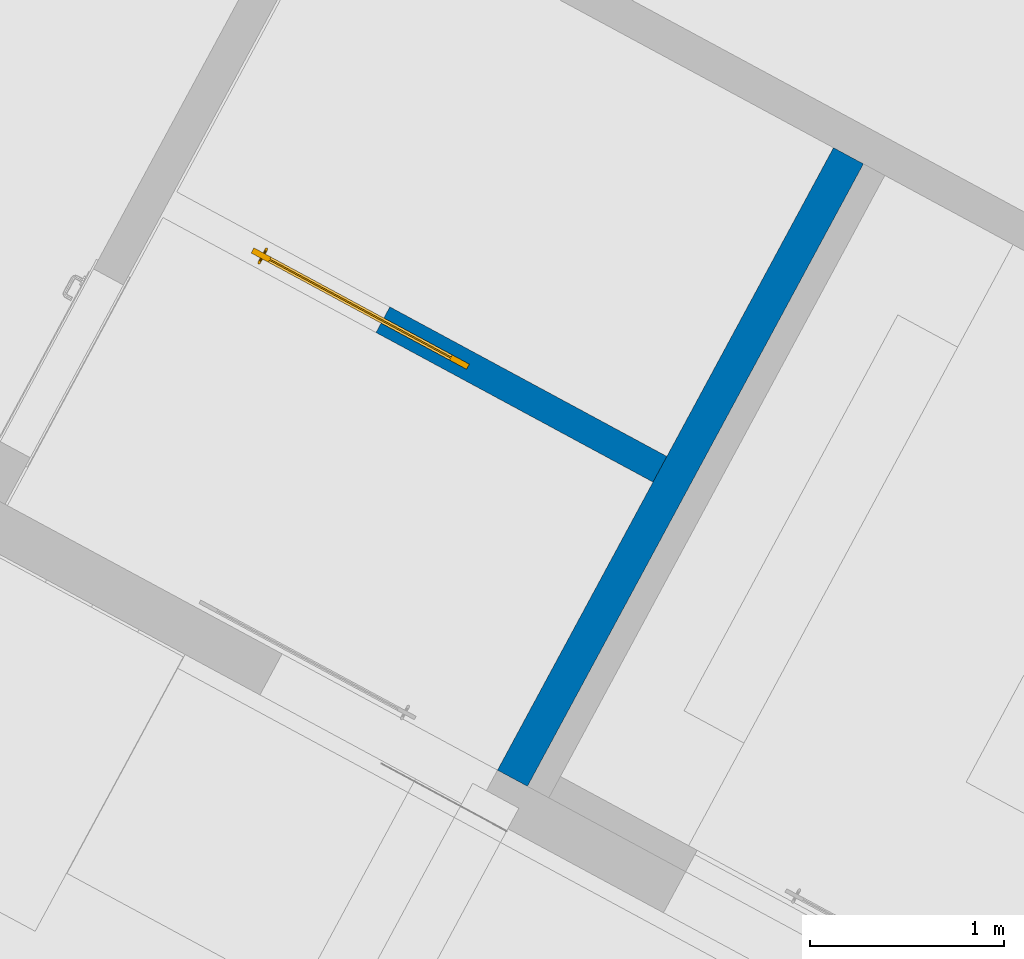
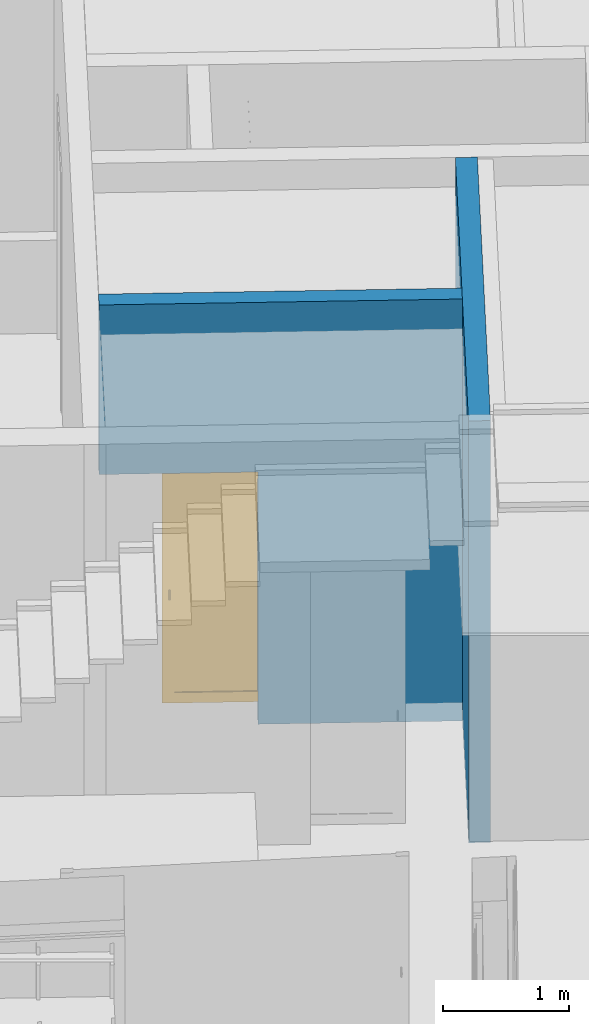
# One storey, part 16 of 52: 2 walls, 1 door, 1 opening.
"""IFC2X3 building model written with IfcOpenShell, lengths in metres."""

from ifc_helpers import new_model, entity, si_unit, converted_unit, derived_unit, money_unit, direction, frame, origin_with_axes, origin_2d_with_axis, place, context, subcontext, project, spatial, rectangle, extrude, faceted_brep, material, material_list, type_object, element, fill, save


model = new_model("IFC2X3")

# Units and contexts
model_context = context("Model", 3, precision=1e-05, world=origin_with_axes(), true_north=direction((0.0, 1.0)))
body_context = subcontext(model_context, "Body", "Model", "MODEL_VIEW")
ifc_project = project(units=[si_unit("LENGTHUNIT", "METRE"), si_unit("AREAUNIT", "SQUARE_METRE"), si_unit("VOLUMEUNIT", "CUBIC_METRE"), converted_unit("PLANEANGLEUNIT", "DEGREE", entity("IfcPlaneAngleMeasure", 0.0174532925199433), si_unit("PLANEANGLEUNIT", "RADIAN"), dimensions=[0, 0, 0, 0, 0, 0, 0]), money_unit("EUR"), converted_unit("TIMEUNIT", "Year", entity("IfcTimeMeasure", 31556926.0), si_unit("TIMEUNIT", "SECOND"), dimensions=[0, 0, 1, 0, 0, 0, 0]), si_unit("MASSUNIT", "GRAM", prefix="KILO"), si_unit("THERMODYNAMICTEMPERATUREUNIT", "DEGREE_CELSIUS"), si_unit("LUMINOUSINTENSITYUNIT", "LUMEN"), si_unit("ENERGYUNIT", "JOULE", prefix="MEGA"), derived_unit("THERMALCONDUCTANCEUNIT", [(si_unit("POWERUNIT", "WATT"), 1), (si_unit("LENGTHUNIT", "METRE"), -1), (si_unit("THERMODYNAMICTEMPERATUREUNIT", "KELVIN"), -1)]), derived_unit("SPECIFICHEATCAPACITYUNIT", [(si_unit("ENERGYUNIT", "JOULE"), 1), (si_unit("MASSUNIT", "GRAM", prefix="KILO"), -1), (si_unit("THERMODYNAMICTEMPERATUREUNIT", "KELVIN"), -1)]), derived_unit("MASSDENSITYUNIT", [(si_unit("MASSUNIT", "GRAM", prefix="KILO"), 1), (si_unit("VOLUMEUNIT", "CUBIC_METRE"), -1)])], contexts=[model_context])

# Site, building, storey
site_placement = place(None, frame((-3.949935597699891, 1.740105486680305, 0.0), z_axis=(0.0, 0.0, 1.0), x_axis=(0.8799804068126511, -0.475009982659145, 0.0)))
site = spatial("IfcSite", under=ifc_project, at=site_placement, Name="Gelände", CompositionType="ELEMENT")
building_placement = place(site_placement, origin_with_axes())
building = spatial("IfcBuilding", under=site, at=building_placement, Name="Gebäude", CompositionType="ELEMENT")
storey_placement = place(building_placement, origin_with_axes())
storey = spatial("IfcBuildingStorey", under=building, at=storey_placement, Name="Erdgeschoss", CompositionType="ELEMENT", Elevation=0.0)

# Wall
ifc_material_1 = material(Name="_SIWH - MW Kalksandstein")
wall_type_1 = type_object("IfcWallType", Name="_SIWH - WI | KS 17,5 | 17,5cm 175", PredefinedType="NOTDEFINED")
wall_1_placement = place(storey_placement, frame((13.59247159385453, 14.53810341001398, -0.18), z_axis=(0.0, 0.0, 1.0), x_axis=(4.437408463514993e-06, -0.9999999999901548, 0.0)))
element("IfcWall", 1, at=wall_1_placement, inside=storey, type_object=wall_type_1, material=ifc_material_1, Name="I-Wand027", context=body_context, shape_type="Brep", body=[
    faceted_brep([(3.640302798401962, 0.0, 0.0), (1.355653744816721e-05, 0.0, 0.0), (1.355653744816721e-05, 0.0, 4.080000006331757), (3.64030279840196, 0.0, 4.080000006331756), (3.640302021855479, -0.1749999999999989, 0.0), (1.277999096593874e-05, -0.1750000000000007, 0.0), (1.277999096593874e-05, -0.1750000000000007, 4.080000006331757), (3.640302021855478, -0.1749999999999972, 4.080000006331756)], [[[0, 1, 2, 3]], [[4, 5, 1, 0]], [[2, 1, 5, 6]], [[3, 2, 6, 7]], [[7, 4, 0, 3]], [[6, 5, 4, 7]]]),
])

# Wall, opening, door
ifc_material_2 = material(Name="_SIWH - Gipskarton")
ifc_material_3 = material(Name="_SIWH - Dämmung, weich Mineralwolle")
ifc_material_list = material_list([ifc_material_2, ifc_material_2, ifc_material_3, ifc_material_2, ifc_material_2])
wall_type_2 = type_object("IfcWallType", Name="_SIWH - WI | GK 2-lagig | 15cm 150", PredefinedType="NOTDEFINED")
wall_2_placement = place(storey_placement, frame((13.41748027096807, 12.58265681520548, -0.18), z_axis=(0.0, 0.0, 1.0), x_axis=(-0.9999999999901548, -4.437408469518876e-06, 0.0)))
wall_2 = element("IfcWall", 2, at=wall_2_placement, inside=storey, type_object=wall_type_2, material=ifc_material_list, Name="L-Wand043", context=body_context, shape_type="Brep", body=[
    faceted_brep([(1.620057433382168, -0.01249999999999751, 2.44), (2.880057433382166, -0.01249999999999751, 2.44), (2.880057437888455, -0.01249999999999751, 4.080000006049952), (0.0, -0.01249999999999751, 4.080000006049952), (0.0, -0.01249999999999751, 0.0), (1.620057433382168, -0.01249999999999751, 0.0), (1.620057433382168, -0.01249999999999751, 0.18), (1.620057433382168, 0.0, 2.44), (2.880057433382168, 0.0, 2.44), (2.880057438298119, 0.0, 4.080000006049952), (0.0, 0.0, 4.080000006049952), (0.0, 0.0, 0.0), (1.620057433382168, 0.0, 0.0), (1.620057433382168, 0.0, 0.18)], [[[0, 1, 2, 3, 4, 5, 6]], [[1, 0, 7, 8]], [[1, 8, 9, 2]], [[9, 10, 3, 2]], [[3, 10, 11, 4]], [[5, 4, 11, 12]], [[13, 6, 5, 12]], [[0, 6, 13, 7]], [[7, 13, 12, 11, 10, 9, 8]]]),
    faceted_brep([(1.620057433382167, -0.0249999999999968, 2.44), (2.880057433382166, -0.0249999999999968, 2.44), (2.880057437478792, -0.02499999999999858, 4.080000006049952), (0.0, -0.02499999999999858, 4.080000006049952), (0.0, -0.02499999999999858, 0.0), (1.620057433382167, -0.02499999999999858, 0.0), (1.620057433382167, -0.0249999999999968, 0.18), (1.620057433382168, -0.01249999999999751, 2.44), (2.880057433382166, -0.01249999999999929, 2.44), (2.880057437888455, -0.01249999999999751, 4.080000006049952), (0.0, -0.01249999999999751, 4.080000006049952), (0.0, -0.01249999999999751, 0.0), (1.620057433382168, -0.01249999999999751, 0.0), (1.620057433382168, -0.01249999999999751, 0.18)], [[[0, 1, 2, 3, 4, 5, 6]], [[1, 0, 7, 8]], [[1, 8, 9, 2]], [[9, 10, 3, 2]], [[3, 10, 11, 4]], [[5, 4, 11, 12]], [[13, 6, 5, 12]], [[0, 6, 13, 7]], [[7, 13, 12, 11, 10, 9, 8]]]),
    faceted_brep([(1.620057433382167, -0.08999999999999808, 0.18), (1.620057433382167, -0.0249999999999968, 0.18), (1.620057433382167, -0.02499999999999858, 2.44), (1.620057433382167, -0.125, 2.44), (1.620057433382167, -0.125, 0.18), (1.620057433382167, -0.1249999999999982, 0.0), (1.620057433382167, -0.02499999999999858, 0.0), (0.0, -0.02499999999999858, 0.0), (0.0, -0.02499999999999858, 4.080000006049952), (2.880057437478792, -0.02499999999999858, 4.080000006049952), (2.880057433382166, -0.02499999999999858, 2.44), (2.880057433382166, -0.08999999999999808, 2.44), (2.880057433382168, -0.1249999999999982, 2.44), (0.0, -0.1249999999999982, 0.0), (2.880057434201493, -0.1249999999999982, 4.080000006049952), (0.0, -0.1249999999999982, 4.080000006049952)], [[[0, 1, 2, 3, 4]], [[1, 0, 4, 5, 6]], [[2, 1, 6, 7, 8, 9, 10]], [[3, 2, 10, 11, 12]], [[13, 5, 4, 3, 12, 14, 15]], [[13, 7, 6, 5]], [[8, 7, 13, 15]], [[8, 15, 14, 9]], [[11, 10, 9, 14, 12]]]),
    faceted_brep([(1.620057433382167, -0.1375000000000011, 2.44), (2.880057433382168, -0.1374999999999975, 2.44), (2.880057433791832, -0.1374999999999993, 4.080000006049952), (0.0, -0.1374999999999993, 4.080000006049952), (0.0, -0.1374999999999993, 0.0), (1.620057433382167, -0.1374999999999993, 0.0), (1.620057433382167, -0.1375000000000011, 0.18), (1.620057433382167, -0.125, 2.44), (2.880057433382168, -0.125, 2.44), (2.880057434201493, -0.1249999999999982, 4.080000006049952), (0.0, -0.1249999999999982, 4.080000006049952), (0.0, -0.1249999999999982, 0.0), (1.620057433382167, -0.1249999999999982, 0.0), (1.620057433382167, -0.125, 0.18)], [[[0, 1, 2, 3, 4, 5, 6]], [[1, 0, 7, 8]], [[1, 8, 9, 2]], [[9, 10, 3, 2]], [[3, 10, 11, 4]], [[5, 4, 11, 12]], [[13, 6, 5, 12]], [[0, 6, 13, 7]], [[7, 13, 12, 11, 10, 9, 8]]]),
    faceted_brep([(1.620057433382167, -0.1499999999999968, 2.44), (2.880057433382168, -0.1499999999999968, 2.44), (2.88005743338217, -0.1499999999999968, 4.080000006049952), (0.0, -0.1499999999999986, 4.080000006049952), (0.0, -0.1499999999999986, 0.0), (1.620057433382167, -0.1499999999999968, 0.0), (1.620057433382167, -0.1499999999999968, 0.18), (1.620057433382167, -0.1375000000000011, 2.44), (2.880057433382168, -0.1374999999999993, 2.44), (2.880057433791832, -0.1374999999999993, 4.080000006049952), (0.0, -0.1374999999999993, 4.080000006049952), (0.0, -0.1374999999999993, 0.0), (1.620057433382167, -0.1374999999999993, 0.0), (1.620057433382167, -0.1375000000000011, 0.18)], [[[0, 1, 2, 3, 4, 5, 6]], [[1, 0, 7, 8]], [[1, 8, 9, 2]], [[9, 10, 3, 2]], [[3, 10, 11, 4]], [[5, 4, 11, 12]], [[13, 6, 5, 12]], [[0, 6, 13, 7]], [[7, 13, 12, 11, 10, 9, 8]]]),
])
opening_placement = place(wall_2_placement, frame((2.250057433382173, 0.0, 0.18), z_axis=(0.0, 0.0, 1.0), x_axis=(1.0, 0.0, 0.0)))
opening = element("IfcOpeningElement", 3, at=opening_placement, cuts=wall_2, Name="Tür-024", context=body_context, shape_type="SweptSolid", body=[
    extrude(rectangle(XDim=1.26, YDim=2.26, at=origin_2d_with_axis()), frame((0.0, -0.08999999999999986, 1.13), z_axis=(0.0, -1.0, 0.0), x_axis=(1.0, 0.0, 0.0)), (0.0, 0.0, -1.0), 0.24),
    extrude(rectangle(XDim=1.260000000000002, YDim=2.26, at=origin_2d_with_axis()), frame((0.0, -0.08999999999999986, 1.13), z_axis=(0.0, 1.0, 0.0), x_axis=(1.0, 0.0, 0.0)), (0.0, 0.0, -1.0), 0.21),
])
door_style = type_object("IfcDoorStyle", Name="Schiebetür 02 1-Fl 26", ConstructionType="NOTDEFINED", OperationType="SLIDING_TO_RIGHT", ParameterTakesPrecedence=False, Sizeable=False)
door_placement = place(opening_placement, frame((-0.6300000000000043, 0.0, 0.0), z_axis=(0.0, 0.0, 1.0), x_axis=(1.0, 0.0, 0.0)))
door = element("IfcDoor", 4, at=door_placement, inside=storey, type_object=door_style, Name="Tür-024", OverallHeight=2.26, OverallWidth=1.26, context=body_context, shape_type="Brep", body=[
    faceted_brep([(-0.4999499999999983, -0.05499999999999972, 0.1), (-0.3999499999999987, -0.05500000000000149, 0.1), (-0.3999499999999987, -0.08500000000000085, 0.1), (-0.4999499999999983, -0.08500000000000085, 0.1), (-0.4999499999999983, -0.05499999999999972, 2.159899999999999), (-0.3999499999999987, -0.05500000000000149, 2.159899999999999), (-0.3999499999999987, -0.08500000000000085, 2.159899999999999), (-0.4999499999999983, -0.08500000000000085, 2.159899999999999)], [[[0, 1, 2, 3]], [[0, 4, 5, 1]], [[1, 5, 6, 2]], [[3, 2, 6, 7]], [[4, 0, 3, 7]], [[5, 4, 7, 6]]]),
    faceted_brep([(0.7599500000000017, -0.05499999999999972, 2.159899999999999), (0.6599500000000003, -0.05499999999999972, 2.159899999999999), (0.6599500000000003, -0.08500000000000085, 2.159899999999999), (0.7599500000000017, -0.08500000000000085, 2.159899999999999), (0.7599500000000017, -0.05499999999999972, 0.1), (0.6599500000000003, -0.05499999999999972, 0.1), (0.6599500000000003, -0.08500000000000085, 0.1), (0.7599500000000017, -0.08500000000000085, 0.1)], [[[0, 1, 2, 3]], [[0, 4, 5, 1]], [[1, 5, 6, 2]], [[3, 2, 6, 7]], [[4, 0, 3, 7]], [[5, 4, 7, 6]]]),
    faceted_brep([(0.7599500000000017, -0.05499999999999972, 0.0), (0.7599500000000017, -0.05499999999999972, 0.1), (0.7599500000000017, -0.08500000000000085, 0.1), (0.7599500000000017, -0.08500000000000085, 0.0), (-0.4999499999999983, -0.05499999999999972, 0.0), (-0.4999499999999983, -0.05499999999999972, 0.1), (-0.3999499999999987, -0.05500000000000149, 0.1), (0.6599500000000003, -0.05499999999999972, 0.1), (0.6599500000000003, -0.08500000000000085, 0.1), (-0.3999499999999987, -0.08500000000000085, 0.1), (-0.4999499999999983, -0.08500000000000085, 0.1), (-0.4999499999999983, -0.08500000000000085, 0.0)], [[[0, 1, 2, 3]], [[0, 4, 5, 6, 7, 1]], [[1, 7, 8, 2]], [[3, 2, 8, 9, 10, 11]], [[4, 0, 3, 11]], [[5, 4, 11, 10]], [[6, 5, 10, 9]], [[7, 6, 9, 8]]]),
    faceted_brep([(-0.4999499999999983, -0.05499999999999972, 2.2599), (-0.4999499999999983, -0.05499999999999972, 2.159899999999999), (-0.4999499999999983, -0.08500000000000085, 2.159899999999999), (-0.4999499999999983, -0.08500000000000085, 2.2599), (0.7599500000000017, -0.05499999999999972, 2.2599), (0.7599500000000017, -0.05499999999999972, 2.159899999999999), (0.6599500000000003, -0.05499999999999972, 2.159899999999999), (-0.3999499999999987, -0.05500000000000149, 2.159899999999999), (-0.3999499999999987, -0.08500000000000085, 2.159899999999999), (0.6599500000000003, -0.08500000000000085, 2.159899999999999), (0.7599500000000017, -0.08500000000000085, 2.159899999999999), (0.7599500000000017, -0.08500000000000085, 2.2599)], [[[0, 1, 2, 3]], [[0, 4, 5, 6, 7, 1]], [[1, 7, 8, 2]], [[3, 2, 8, 9, 10, 11]], [[4, 0, 3, 11]], [[5, 4, 11, 10]], [[6, 5, 10, 9]], [[7, 6, 9, 8]]]),
    faceted_brep([(-0.3999499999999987, -0.06649999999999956, 0.1), (0.6599500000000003, -0.06649999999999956, 0.1), (0.6599500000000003, -0.07349999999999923, 0.1), (-0.3999499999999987, -0.07350000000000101, 0.1), (-0.3999499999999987, -0.06649999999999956, 2.159899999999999), (0.6599500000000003, -0.06649999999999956, 2.159899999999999), (0.6599500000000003, -0.07349999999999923, 2.159899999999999), (-0.3999499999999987, -0.07349999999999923, 2.159899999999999)], [[[0, 1, 2, 3]], [[0, 4, 5, 1]], [[1, 5, 6, 2]], [[3, 2, 6, 7]], [[4, 0, 3, 7]], [[5, 4, 7, 6]]]),
    faceted_brep([(0.6929500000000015, -0.09999999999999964, 1.085980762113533), (0.6938878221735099, -0.1017500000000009, 1.089011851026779), (0.6938878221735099, -0.08500000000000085, 1.0935), (0.6929500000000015, -0.08500000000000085, 1.09), (0.6929500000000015, -0.1109807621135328, 1.075), (0.6938878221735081, -0.1140118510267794, 1.07675), (0.6964500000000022, -0.1030310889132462, 1.091230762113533), (0.6964500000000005, -0.08500000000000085, 1.096062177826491), (0.6999500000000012, -0.08500000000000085, 1.097), (0.7034500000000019, -0.08500000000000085, 1.096062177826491), (0.7060121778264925, -0.08500000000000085, 1.0935), (0.7069500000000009, -0.08500000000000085, 1.09), (0.7060121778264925, -0.08500000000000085, 1.0865), (0.7034500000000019, -0.08500000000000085, 1.083937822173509), (0.6999500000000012, -0.08500000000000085, 1.083), (0.6964500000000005, -0.08500000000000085, 1.083937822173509), (0.6938878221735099, -0.08500000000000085, 1.0865), (0.6938878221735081, -0.0982499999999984, 1.082949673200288), (0.6929500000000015, -0.1150000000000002, 1.06), (0.6938878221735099, -0.1185000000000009, 1.06), (0.6964500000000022, -0.116230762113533, 1.078031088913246), (0.6938878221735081, -0.1079496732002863, 1.07325), (0.6999500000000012, -0.1035000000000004, 1.092042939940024), (0.7034500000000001, -0.103031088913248, 1.091230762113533), (0.7060121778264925, -0.1017500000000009, 1.089011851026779), (0.7069500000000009, -0.09999999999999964, 1.085980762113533), (0.7060121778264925, -0.0982499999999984, 1.082949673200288), (0.7034500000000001, -0.0969689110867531, 1.080730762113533), (0.699950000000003, -0.0965000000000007, 1.079918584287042), (0.6964500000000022, -0.0969689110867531, 1.080730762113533), (0.6938878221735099, -0.1114999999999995, 1.06), (0.6964500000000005, -0.1089378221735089, 1.06), (0.6999500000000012, -0.1079999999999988, 1.06), (0.7034500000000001, -0.1089378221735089, 1.06), (0.7060121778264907, -0.1114999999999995, 1.06), (0.7069500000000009, -0.1149999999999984, 1.06), (0.7060121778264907, -0.1185000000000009, 1.06), (0.7034500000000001, -0.1210621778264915, 1.06), (0.6999500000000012, -0.1219999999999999, 1.06), (0.6964500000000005, -0.1210621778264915, 1.06), (0.699950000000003, -0.1170429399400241, 1.0785), (0.6964500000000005, -0.1057307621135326, 1.071968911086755), (0.7034500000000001, -0.116230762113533, 1.078031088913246), (0.7060121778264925, -0.1140118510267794, 1.07675), (0.7069500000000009, -0.1109807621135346, 1.075), (0.7060121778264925, -0.107949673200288, 1.07325), (0.7034500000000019, -0.1057307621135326, 1.071968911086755), (0.699950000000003, -0.1049185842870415, 1.0715)], [[[0, 1, 2, 3]], [[4, 5, 1, 0]], [[1, 6, 7, 2]], [[3, 2, 7, 8, 9, 10, 11, 12, 13, 14, 15, 16]], [[17, 0, 3, 16]], [[18, 19, 5, 4]], [[5, 20, 6, 1]], [[21, 4, 0, 17]], [[6, 22, 8, 7]], [[22, 23, 9, 8]], [[23, 24, 10, 9]], [[24, 25, 11, 10]], [[25, 26, 12, 11]], [[26, 27, 13, 12]], [[27, 28, 14, 13]], [[28, 29, 15, 14]], [[29, 17, 16, 15]], [[18, 30, 31, 32, 33, 34, 35, 36, 37, 38, 39, 19]], [[19, 39, 20, 5]], [[30, 18, 4, 21]], [[20, 40, 22, 6]], [[41, 21, 17, 29]], [[40, 42, 23, 22]], [[42, 43, 24, 23]], [[43, 44, 25, 24]], [[44, 45, 26, 25]], [[45, 46, 27, 26]], [[46, 47, 28, 27]], [[47, 41, 29, 28]], [[31, 30, 21, 41]], [[32, 31, 41, 47]], [[33, 32, 47, 46]], [[34, 33, 46, 45]], [[35, 34, 45, 44]], [[36, 35, 44, 43]], [[37, 36, 43, 42]], [[38, 37, 42, 40]], [[39, 38, 40, 20]]]),
    faceted_brep([(0.7069500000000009, -0.09999999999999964, 1.014019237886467), (0.7060121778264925, -0.1017500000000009, 1.010988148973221), (0.7060121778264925, -0.08500000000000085, 1.0065), (0.7069500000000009, -0.08500000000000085, 1.01), (0.7069500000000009, -0.1109807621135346, 1.025), (0.7060121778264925, -0.1140118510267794, 1.02325), (0.7034500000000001, -0.103031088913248, 1.008769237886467), (0.7034500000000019, -0.08500000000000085, 1.003937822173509), (0.6999500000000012, -0.08500000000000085, 1.003), (0.6964500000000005, -0.08500000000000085, 1.003937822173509), (0.6938878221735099, -0.08500000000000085, 1.0065), (0.6929500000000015, -0.08500000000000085, 1.01), (0.6938878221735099, -0.08500000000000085, 1.0135), (0.6964500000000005, -0.08500000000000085, 1.016062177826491), (0.6999500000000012, -0.08500000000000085, 1.017), (0.7034500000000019, -0.08500000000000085, 1.016062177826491), (0.7060121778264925, -0.08500000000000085, 1.0135), (0.7060121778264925, -0.0982499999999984, 1.017050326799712), (0.7069500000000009, -0.1149999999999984, 1.04), (0.7060121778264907, -0.1185000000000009, 1.04), (0.7034500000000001, -0.116230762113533, 1.021968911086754), (0.7060121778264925, -0.107949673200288, 1.02675), (0.6999500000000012, -0.1035000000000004, 1.007957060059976), (0.6964500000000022, -0.1030310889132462, 1.008769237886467), (0.6938878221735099, -0.1017500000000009, 1.010988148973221), (0.6929500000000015, -0.09999999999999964, 1.014019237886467), (0.6938878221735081, -0.0982499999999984, 1.017050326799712), (0.6964500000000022, -0.0969689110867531, 1.019269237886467), (0.699950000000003, -0.0965000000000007, 1.020081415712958), (0.7034500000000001, -0.0969689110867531, 1.019269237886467), (0.7060121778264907, -0.1114999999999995, 1.04), (0.7034500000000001, -0.1089378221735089, 1.04), (0.6999500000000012, -0.1079999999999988, 1.04), (0.6964500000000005, -0.1089378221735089, 1.04), (0.6938878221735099, -0.1114999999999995, 1.04), (0.6929500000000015, -0.1150000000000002, 1.04), (0.6938878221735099, -0.1185000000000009, 1.04), (0.6964500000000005, -0.1210621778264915, 1.04), (0.6999500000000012, -0.1219999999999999, 1.04), (0.7034500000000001, -0.1210621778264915, 1.04), (0.699950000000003, -0.1170429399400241, 1.0215), (0.7034500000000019, -0.1057307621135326, 1.028031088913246), (0.6964500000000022, -0.116230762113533, 1.021968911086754), (0.6938878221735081, -0.1140118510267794, 1.02325), (0.6929500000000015, -0.1109807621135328, 1.025), (0.6938878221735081, -0.1079496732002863, 1.02675), (0.6964500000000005, -0.1057307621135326, 1.028031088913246), (0.699950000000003, -0.1049185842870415, 1.0285)], [[[0, 1, 2, 3]], [[4, 5, 1, 0]], [[1, 6, 7, 2]], [[3, 2, 7, 8, 9, 10, 11, 12, 13, 14, 15, 16]], [[17, 0, 3, 16]], [[18, 19, 5, 4]], [[5, 20, 6, 1]], [[21, 4, 0, 17]], [[6, 22, 8, 7]], [[22, 23, 9, 8]], [[23, 24, 10, 9]], [[24, 25, 11, 10]], [[25, 26, 12, 11]], [[26, 27, 13, 12]], [[27, 28, 14, 13]], [[28, 29, 15, 14]], [[29, 17, 16, 15]], [[18, 30, 31, 32, 33, 34, 35, 36, 37, 38, 39, 19]], [[19, 39, 20, 5]], [[30, 18, 4, 21]], [[20, 40, 22, 6]], [[41, 21, 17, 29]], [[40, 42, 23, 22]], [[42, 43, 24, 23]], [[43, 44, 25, 24]], [[44, 45, 26, 25]], [[45, 46, 27, 26]], [[46, 47, 28, 27]], [[47, 41, 29, 28]], [[31, 30, 21, 41]], [[32, 31, 41, 47]], [[33, 32, 47, 46]], [[34, 33, 46, 45]], [[35, 34, 45, 44]], [[36, 35, 44, 43]], [[37, 36, 43, 42]], [[38, 37, 42, 40]], [[39, 38, 40, 20]]]),
    faceted_brep([(0.6929500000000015, -0.1150000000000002, 1.04), (0.6929500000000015, -0.1150000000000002, 1.06), (0.6938878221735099, -0.1114999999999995, 1.06), (0.6938878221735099, -0.1114999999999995, 1.04), (0.6938878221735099, -0.1185000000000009, 1.04), (0.6938878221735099, -0.1185000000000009, 1.06), (0.6964500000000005, -0.1210621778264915, 1.06), (0.6999500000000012, -0.1219999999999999, 1.06), (0.7034500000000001, -0.1210621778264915, 1.06), (0.7060121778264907, -0.1185000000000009, 1.06), (0.7069500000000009, -0.1149999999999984, 1.06), (0.7060121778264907, -0.1114999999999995, 1.06), (0.7034500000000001, -0.1089378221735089, 1.06), (0.6999500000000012, -0.1079999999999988, 1.06), (0.6964500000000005, -0.1089378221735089, 1.06), (0.6964500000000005, -0.1089378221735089, 1.04), (0.6999500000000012, -0.1079999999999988, 1.04), (0.7034500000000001, -0.1089378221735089, 1.04), (0.7060121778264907, -0.1114999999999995, 1.04), (0.7069500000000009, -0.1149999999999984, 1.04), (0.7060121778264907, -0.1185000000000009, 1.04), (0.7034500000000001, -0.1210621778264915, 1.04), (0.6999500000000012, -0.1219999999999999, 1.04), (0.6964500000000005, -0.1210621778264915, 1.04)], [[[0, 1, 2, 3]], [[4, 5, 1, 0]], [[1, 5, 6, 7, 8, 9, 10, 11, 12, 13, 14, 2]], [[3, 2, 14, 15]], [[0, 3, 15, 16, 17, 18, 19, 20, 21, 22, 23, 4]], [[23, 6, 5, 4]], [[22, 7, 6, 23]], [[21, 8, 7, 22]], [[20, 9, 8, 21]], [[19, 10, 9, 20]], [[18, 11, 10, 19]], [[17, 12, 11, 18]], [[16, 13, 12, 17]], [[15, 14, 13, 16]]]),
    faceted_brep([(0.6929500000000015, -0.03999999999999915, 1.085980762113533), (0.6929500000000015, -0.05500000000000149, 1.09), (0.6938878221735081, -0.05499999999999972, 1.0935), (0.6938878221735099, -0.03824999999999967, 1.089011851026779), (0.6938878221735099, -0.04174999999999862, 1.082949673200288), (0.6938878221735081, -0.05499999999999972, 1.0865), (0.6964500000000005, -0.05499999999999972, 1.083937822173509), (0.699950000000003, -0.05499999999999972, 1.083), (0.7034500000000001, -0.05499999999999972, 1.083937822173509), (0.7060121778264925, -0.05499999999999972, 1.0865), (0.7069500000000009, -0.05499999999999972, 1.09), (0.7060121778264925, -0.05499999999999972, 1.0935), (0.7034500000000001, -0.05499999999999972, 1.096062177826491), (0.699950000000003, -0.05499999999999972, 1.097), (0.6964500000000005, -0.05499999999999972, 1.096062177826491), (0.6964500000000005, -0.03696891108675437, 1.091230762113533), (0.6929500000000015, -0.02901923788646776, 1.075), (0.6938878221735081, -0.02598814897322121, 1.07675), (0.6964500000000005, -0.0430310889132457, 1.080730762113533), (0.6938878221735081, -0.03205032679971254, 1.07325), (0.6999500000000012, -0.04350000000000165, 1.079918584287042), (0.7034500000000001, -0.04303108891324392, 1.080730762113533), (0.7060121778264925, -0.04174999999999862, 1.082949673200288), (0.7069500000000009, -0.04000000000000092, 1.085980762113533), (0.7060121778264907, -0.03824999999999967, 1.089011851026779), (0.7034500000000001, -0.03696891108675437, 1.091230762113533), (0.6999500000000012, -0.0365000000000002, 1.092042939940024), (0.6964500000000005, -0.02376923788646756, 1.078031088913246), (0.6929500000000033, -0.02500000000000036, 1.06), (0.6938878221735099, -0.02150000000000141, 1.06), (0.6964500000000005, -0.03426923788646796, 1.071968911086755), (0.6938878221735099, -0.0284999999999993, 1.06), (0.6999500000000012, -0.03508141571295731, 1.0715), (0.7034500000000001, -0.03426923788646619, 1.071968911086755), (0.7060121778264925, -0.03205032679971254, 1.07325), (0.7069500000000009, -0.02901923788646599, 1.075), (0.7060121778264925, -0.02598814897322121, 1.07675), (0.7034500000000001, -0.02376923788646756, 1.078031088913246), (0.6999500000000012, -0.02295706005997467, 1.0785), (0.6964500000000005, -0.01893782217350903, 1.06), (0.6999500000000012, -0.01800000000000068, 1.06), (0.7034500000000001, -0.01893782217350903, 1.06), (0.7060121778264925, -0.02150000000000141, 1.06), (0.7069500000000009, -0.02500000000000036, 1.06), (0.7060121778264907, -0.02850000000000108, 1.06), (0.7034500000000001, -0.03106217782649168, 1.06), (0.6999500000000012, -0.03200000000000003, 1.06), (0.6964500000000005, -0.03106217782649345, 1.06)], [[[0, 1, 2, 3]], [[4, 5, 1, 0]], [[1, 5, 6, 7, 8, 9, 10, 11, 12, 13, 14, 2]], [[3, 2, 14, 15]], [[16, 0, 3, 17]], [[18, 6, 5, 4]], [[19, 4, 0, 16]], [[20, 7, 6, 18]], [[21, 8, 7, 20]], [[22, 9, 8, 21]], [[23, 10, 9, 22]], [[24, 11, 10, 23]], [[25, 12, 11, 24]], [[26, 13, 12, 25]], [[15, 14, 13, 26]], [[17, 3, 15, 27]], [[28, 16, 17, 29]], [[30, 18, 4, 19]], [[31, 19, 16, 28]], [[32, 20, 18, 30]], [[33, 21, 20, 32]], [[34, 22, 21, 33]], [[35, 23, 22, 34]], [[36, 24, 23, 35]], [[37, 25, 24, 36]], [[38, 26, 25, 37]], [[27, 15, 26, 38]], [[29, 17, 27, 39]], [[28, 29, 39, 40, 41, 42, 43, 44, 45, 46, 47, 31]], [[47, 30, 19, 31]], [[46, 32, 30, 47]], [[45, 33, 32, 46]], [[44, 34, 33, 45]], [[43, 35, 34, 44]], [[42, 36, 35, 43]], [[41, 37, 36, 42]], [[40, 38, 37, 41]], [[39, 27, 38, 40]]]),
    faceted_brep([(0.7069500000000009, -0.04000000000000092, 1.014019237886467), (0.7069500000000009, -0.05499999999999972, 1.01), (0.7060121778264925, -0.05499999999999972, 1.0065), (0.7060121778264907, -0.03824999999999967, 1.010988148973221), (0.7060121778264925, -0.04174999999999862, 1.017050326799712), (0.7060121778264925, -0.05499999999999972, 1.0135), (0.7034500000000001, -0.05499999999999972, 1.016062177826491), (0.699950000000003, -0.05499999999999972, 1.017), (0.6964500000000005, -0.05500000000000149, 1.016062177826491), (0.6938878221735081, -0.05499999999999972, 1.0135), (0.6929500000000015, -0.05500000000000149, 1.01), (0.6938878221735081, -0.05499999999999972, 1.0065), (0.6964500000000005, -0.05500000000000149, 1.003937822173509), (0.699950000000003, -0.05499999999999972, 1.003), (0.7034500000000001, -0.05499999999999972, 1.003937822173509), (0.7034500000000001, -0.03696891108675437, 1.008769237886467), (0.7069500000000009, -0.02901923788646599, 1.025), (0.7060121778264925, -0.02598814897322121, 1.02325), (0.7034500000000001, -0.04303108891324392, 1.019269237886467), (0.7060121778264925, -0.03205032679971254, 1.02675), (0.6999500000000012, -0.04350000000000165, 1.020081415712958), (0.6964500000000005, -0.0430310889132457, 1.019269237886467), (0.6938878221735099, -0.04174999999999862, 1.017050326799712), (0.6929500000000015, -0.03999999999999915, 1.014019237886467), (0.6938878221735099, -0.03824999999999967, 1.010988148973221), (0.6964500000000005, -0.03696891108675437, 1.008769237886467), (0.6999500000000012, -0.0365000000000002, 1.007957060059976), (0.7034500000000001, -0.02376923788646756, 1.021968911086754), (0.7069500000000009, -0.02500000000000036, 1.04), (0.7060121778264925, -0.02150000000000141, 1.04), (0.7034500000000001, -0.03426923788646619, 1.028031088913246), (0.7060121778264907, -0.02850000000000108, 1.04), (0.6999500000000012, -0.03508141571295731, 1.0285), (0.6964500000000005, -0.03426923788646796, 1.028031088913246), (0.6938878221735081, -0.03205032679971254, 1.02675), (0.6929500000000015, -0.02901923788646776, 1.025), (0.6938878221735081, -0.02598814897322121, 1.02325), (0.6964500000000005, -0.02376923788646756, 1.021968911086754), (0.6999500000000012, -0.02295706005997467, 1.0215), (0.7034500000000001, -0.01893782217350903, 1.04), (0.6999500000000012, -0.01800000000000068, 1.04), (0.6964500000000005, -0.01893782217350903, 1.04), (0.6938878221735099, -0.02150000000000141, 1.04), (0.6929500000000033, -0.02500000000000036, 1.04), (0.6938878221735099, -0.0284999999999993, 1.04), (0.6964500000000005, -0.03106217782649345, 1.04), (0.6999500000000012, -0.03200000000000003, 1.04), (0.7034500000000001, -0.03106217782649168, 1.04)], [[[0, 1, 2, 3]], [[4, 5, 1, 0]], [[1, 5, 6, 7, 8, 9, 10, 11, 12, 13, 14, 2]], [[3, 2, 14, 15]], [[16, 0, 3, 17]], [[18, 6, 5, 4]], [[19, 4, 0, 16]], [[20, 7, 6, 18]], [[21, 8, 7, 20]], [[22, 9, 8, 21]], [[23, 10, 9, 22]], [[24, 11, 10, 23]], [[25, 12, 11, 24]], [[26, 13, 12, 25]], [[15, 14, 13, 26]], [[17, 3, 15, 27]], [[28, 16, 17, 29]], [[30, 18, 4, 19]], [[31, 19, 16, 28]], [[32, 20, 18, 30]], [[33, 21, 20, 32]], [[34, 22, 21, 33]], [[35, 23, 22, 34]], [[36, 24, 23, 35]], [[37, 25, 24, 36]], [[38, 26, 25, 37]], [[27, 15, 26, 38]], [[29, 17, 27, 39]], [[28, 29, 39, 40, 41, 42, 43, 44, 45, 46, 47, 31]], [[47, 30, 19, 31]], [[46, 32, 30, 47]], [[45, 33, 32, 46]], [[44, 34, 33, 45]], [[43, 35, 34, 44]], [[42, 36, 35, 43]], [[41, 37, 36, 42]], [[40, 38, 37, 41]], [[39, 27, 38, 40]]]),
    faceted_brep([(0.6929500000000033, -0.02500000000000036, 1.04), (0.6938878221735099, -0.0284999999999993, 1.04), (0.6938878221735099, -0.0284999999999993, 1.06), (0.6929500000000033, -0.02500000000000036, 1.06), (0.6938878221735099, -0.02150000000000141, 1.04), (0.6964500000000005, -0.01893782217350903, 1.04), (0.6999500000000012, -0.01800000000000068, 1.04), (0.7034500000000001, -0.01893782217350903, 1.04), (0.7060121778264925, -0.02150000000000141, 1.04), (0.7069500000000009, -0.02500000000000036, 1.04), (0.7060121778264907, -0.02850000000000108, 1.04), (0.7034500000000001, -0.03106217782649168, 1.04), (0.6999500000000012, -0.03200000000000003, 1.04), (0.6964500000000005, -0.03106217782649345, 1.04), (0.6964500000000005, -0.03106217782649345, 1.06), (0.6999500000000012, -0.03200000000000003, 1.06), (0.7034500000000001, -0.03106217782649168, 1.06), (0.7060121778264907, -0.02850000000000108, 1.06), (0.7069500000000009, -0.02500000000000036, 1.06), (0.7060121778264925, -0.02150000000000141, 1.06), (0.7034500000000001, -0.01893782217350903, 1.06), (0.6999500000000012, -0.01800000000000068, 1.06), (0.6964500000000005, -0.01893782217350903, 1.06), (0.6938878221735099, -0.02150000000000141, 1.06)], [[[0, 1, 2, 3]], [[0, 4, 5, 6, 7, 8, 9, 10, 11, 12, 13, 1]], [[1, 13, 14, 2]], [[3, 2, 14, 15, 16, 17, 18, 19, 20, 21, 22, 23]], [[4, 0, 3, 23]], [[5, 4, 23, 22]], [[6, 5, 22, 21]], [[7, 6, 21, 20]], [[8, 7, 20, 19]], [[9, 8, 19, 18]], [[10, 9, 18, 17]], [[11, 10, 17, 16]], [[12, 11, 16, 15]], [[13, 12, 15, 14]]]),
])
fill(opening, door)

save(model, "model.ifc")
